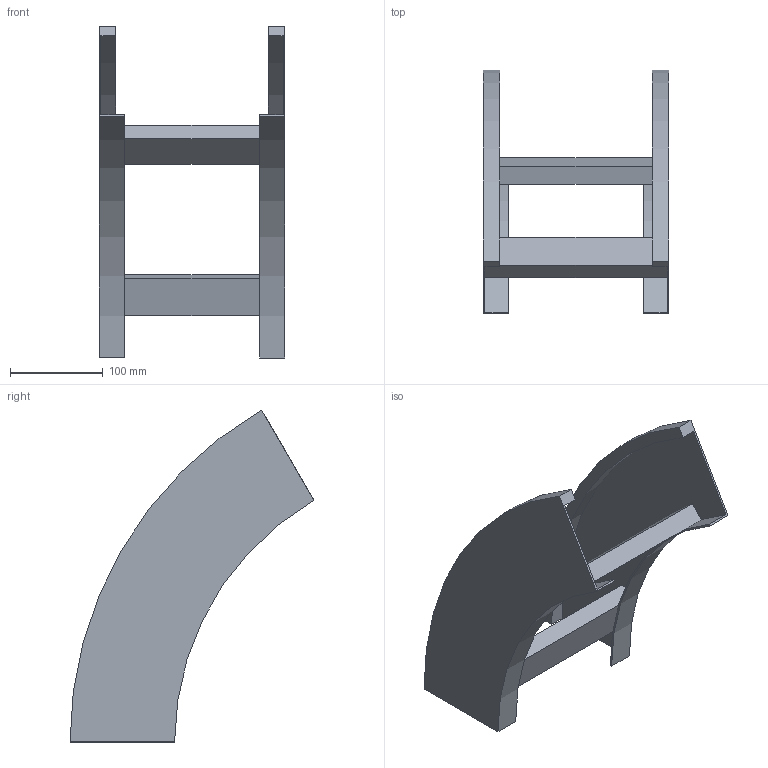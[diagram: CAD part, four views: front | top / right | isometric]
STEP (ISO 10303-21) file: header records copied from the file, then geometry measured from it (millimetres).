
FILE_DESCRIPTION (( 'STEP AP214' ), '1' );
FILE_NAME ('B2_41B3J200.step', '2025-02-21T14:58:46', ( '' ), ( '' ), 'SwSTEP 2.0', 'SolidWorks 2023', '' );
FILE_SCHEMA (( 'AUTOMOTIVE_DESIGN' ));
Length unit declared in the file: millimetre
Products named in the file (3): B2_41B3J200; B2_LONGH.DISCESA_60°_H112.5_R300; TRAVERSINO_200
Assembly tree (4 placements, depth 2):
  B2_41B3J200
    B2_LONGH.DISCESA_60°_H112.5_R300  x2
    TRAVERSINO_200  x2
Bounding box: 200 x 262.5 x 357.24 mm (x, y, z)
Volume: 680382.9 mm3; surface area: 282167.9 mm2
Topology: 4 solids, 4 shells, 32 faces, 72 edges, 48 vertices
Faces by surface type: plane 24, cylinder 8
Entity records: 552 total; most frequent: DIRECTION 90, CARTESIAN_POINT 83, ORIENTED_EDGE 72, EDGE_CURVE 36, AXIS2_PLACEMENT_3D 31, VECTOR 28, LINE 28, VERTEX_POINT 24
